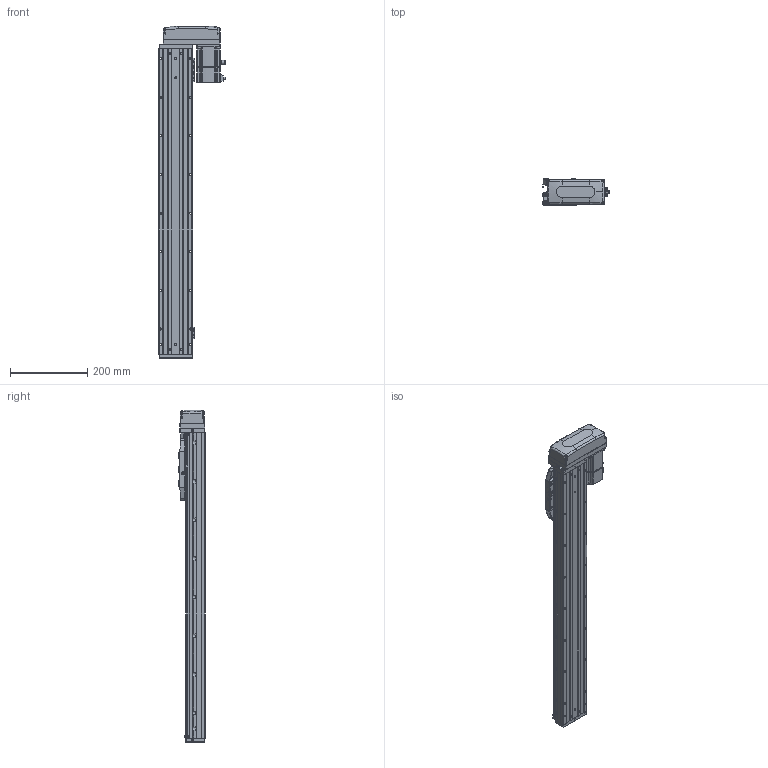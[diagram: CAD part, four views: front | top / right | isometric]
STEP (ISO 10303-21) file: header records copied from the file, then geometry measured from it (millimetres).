
FILE_DESCRIPTION (( 'STEP AP203' ), '1' );
FILE_NAME ('CTHA86-600-BL-M20-C4L.step', '2022-04-26T00:51:53', ( '微软用户' ), ( '微软中国' ), 'SwSTEP 2.0', 'SolidWorks 2020', '' );
FILE_SCHEMA (( 'CONFIG_CONTROL_DESIGN' ));
Length unit declared in the file: millimetre
Products named in the file (21): GBT 70.1-M3×20; CTHA86-031; EE_SX911P_R; GBT70.1 M5℅16; CTHA86-030; CTHA60-017; GBT 70.1-M3×16; GBT 70.3-M3℅6; GBT 70.1-M3℅6; KTHA86-001_790; CTHA86-015-1_CTHA86-015-2; CTHA60-016; KTHA86-004; CTHA86-033; CTHA60-021; _X2_4E0983F1_X0_200W_1; KTHA86-005; CTHA86-600-BL-M20-C4L; GBT77-2000 M3×3; CTHA86-002; GB¨uT 70.2-M3¡Á5_M3¡Á6
Assembly tree (66 placements, depth 2):
  CTHA86-600-BL-M20-C4L
    KTHA86-001_790
    KTHA86-004
    KTHA86-005
    GB¨uT 70.2-M3¡Á5_M3¡Á6  x10
    EE_SX911P_R  x3
    CTHA60-017  x3
    CTHA60-021  x2
    GBT77-2000 M3×3  x6
    GBT 70.1-M3×20
    GBT70.1 M5℅16  x14
    GBT 70.1-M3×16  x5
    GBT 70.1-M3℅6  x6
    CTHA60-016  x2
    _X2_4E0983F1_X0_200W_1
    CTHA86-002
    CTHA86-031
    CTHA86-030  x2
    GBT 70.3-M3℅6  x4
    CTHA86-015-1_CTHA86-015-2
    CTHA86-033
Bounding box: 172.7 x 68 x 859 mm (x, y, z)
Volume: 3426026.3 mm3; surface area: 594810.7 mm2
Topology: 68 solids, 68 shells, 2786 faces, 6652 edges, 4096 vertices
Faces by surface type: plane 1463, cylinder 723, cone 369, torus 132, bspline 75, sphere 24
Entity records: 49081 total; most frequent: CARTESIAN_POINT 9507, DIRECTION 7629, ORIENTED_EDGE 7404, EDGE_CURVE 3702, AXIS2_PLACEMENT_3D 2602, LINE 2425, VECTOR 2425, VERTEX_POINT 2328
